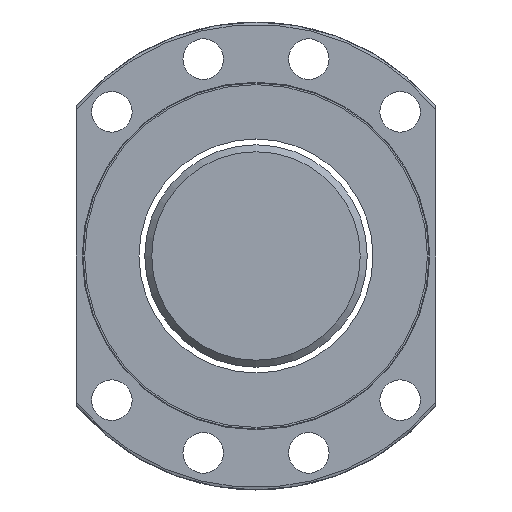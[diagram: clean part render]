
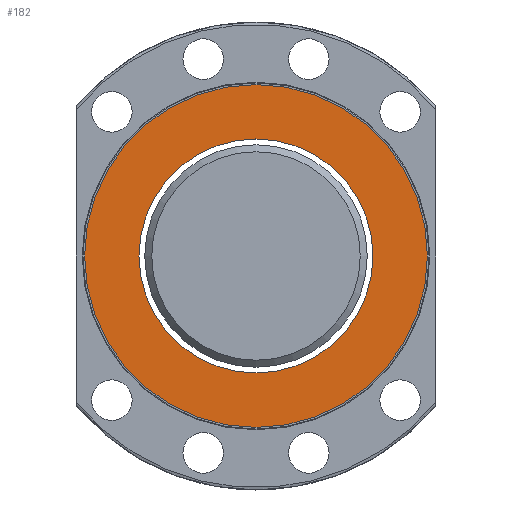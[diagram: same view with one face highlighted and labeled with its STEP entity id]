
A CAD part, left-side view. The second image highlights one B-rep face of the part: STEP entity #182.
In plain terms, the highlighted planar face has unit normal (-1, 0, 0).
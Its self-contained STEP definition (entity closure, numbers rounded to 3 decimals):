
#182=ADVANCED_FACE('',(#282,#236),#220,.F.);
#220=PLANE('',#807);
#236=FACE_OUTER_BOUND('',#370,.T.);
#282=FACE_BOUND('',#369,.T.);
#369=EDGE_LOOP('',(#473));
#370=EDGE_LOOP('',(#474));
#473=ORIENTED_EDGE('',*,*,#661,.F.);
#474=ORIENTED_EDGE('',*,*,#660,.T.);
#597=VERTEX_POINT('',#1146);
#598=VERTEX_POINT('',#1149);
#660=EDGE_CURVE('',#597,#597,#731,.T.);
#661=EDGE_CURVE('',#598,#598,#732,.T.);
#731=CIRCLE('',#804,74.);
#732=CIRCLE('',#806,50.5);
#804=AXIS2_PLACEMENT_3D('',#1145,#945,#946);
#806=AXIS2_PLACEMENT_3D('',#1148,#949,#950);
#807=AXIS2_PLACEMENT_3D('',#1150,#951,#952);
#945=DIRECTION('',(-1.,0.,0.));
#946=DIRECTION('',(0.,0.,1.));
#949=DIRECTION('',(-1.,0.,0.));
#950=DIRECTION('',(0.,0.,1.));
#951=DIRECTION('',(1.,0.,0.));
#952=DIRECTION('',(0.,0.,-1.));
#1145=CARTESIAN_POINT('',(-274.,0.,0.));
#1146=CARTESIAN_POINT('',(-274.,0.,74.));
#1148=CARTESIAN_POINT('',(-274.,0.,0.));
#1149=CARTESIAN_POINT('',(-274.,0.,50.5));
#1150=CARTESIAN_POINT('',(-274.,62.25,0.));
